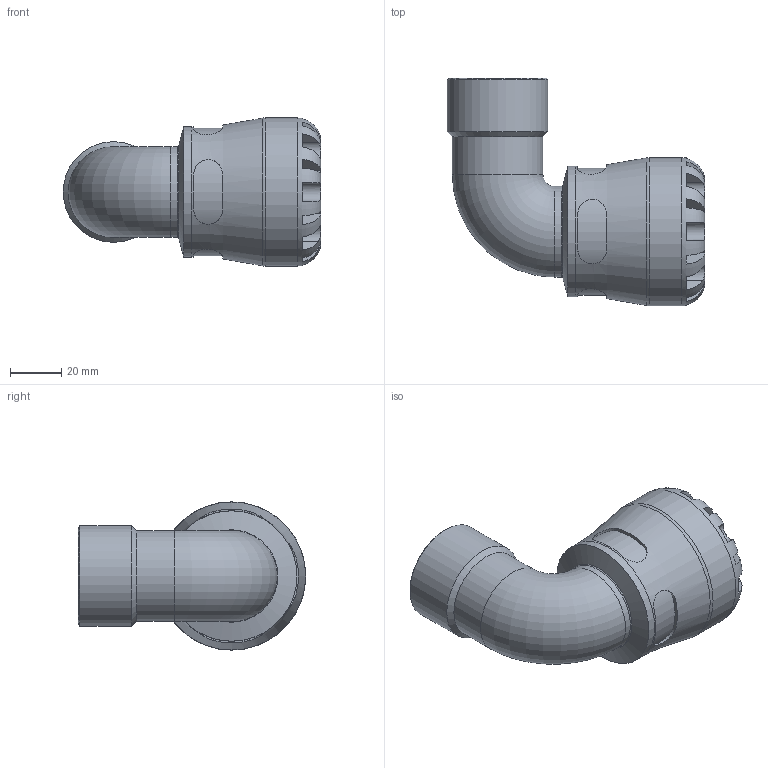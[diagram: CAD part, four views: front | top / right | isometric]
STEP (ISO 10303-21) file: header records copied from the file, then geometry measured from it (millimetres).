
FILE_DESCRIPTION(/* description */ ('PLASSON 90° ELBOW WITH FEMALE INTEGRAL BRASS 32X1" SERIES 1'),/* implementation_level */ '2;1');
FILE_NAME(/* name */ 'C:\Dropbox\KIMPROJECTS-Inventor\99-16-3568-Processing\S1\1076\107600032010_197600032010.ipt.stp',/* time_stamp */ '2018-05-13T11:02:54+03:00',/* author */ ('KIM'),/* organization */ (''),/* preprocessor_version */ 'ST-DEVELOPER v15.6',/* originating_system */ 'Autodesk Inventor 2015',/* authorisation */ '');
FILE_SCHEMA (('AUTOMOTIVE_DESIGN { 1 0 10303 214 3 1 1 }'));
Length unit declared in the file: millimetre
Products named in the file (1): 107600032010_197600032010
Bounding box: 100.69 x 89 x 58 mm (x, y, z)
Volume: 112950.6 mm3; surface area: 35034.2 mm2
Topology: 1 solids, 1 shells, 108 faces, 265 edges, 164 vertices
Faces by surface type: plane 60, cylinder 37, torus 6, cone 5
Full cylindrical faces by diameter (mm): 27.262 x2, 30.291 x1, 32 x1, 35.44 x2, 39.378 x1, 51.04 x1, 58 x1
Entity records: 3982 total; most frequent: CARTESIAN_POINT 1457, DIRECTION 488, ORIENTED_EDGE 478, EDGE_CURVE 239, AXIS2_PLACEMENT_3D 204, VERTEX_POINT 159, EDGE_LOOP 136, STYLED_ITEM 109
